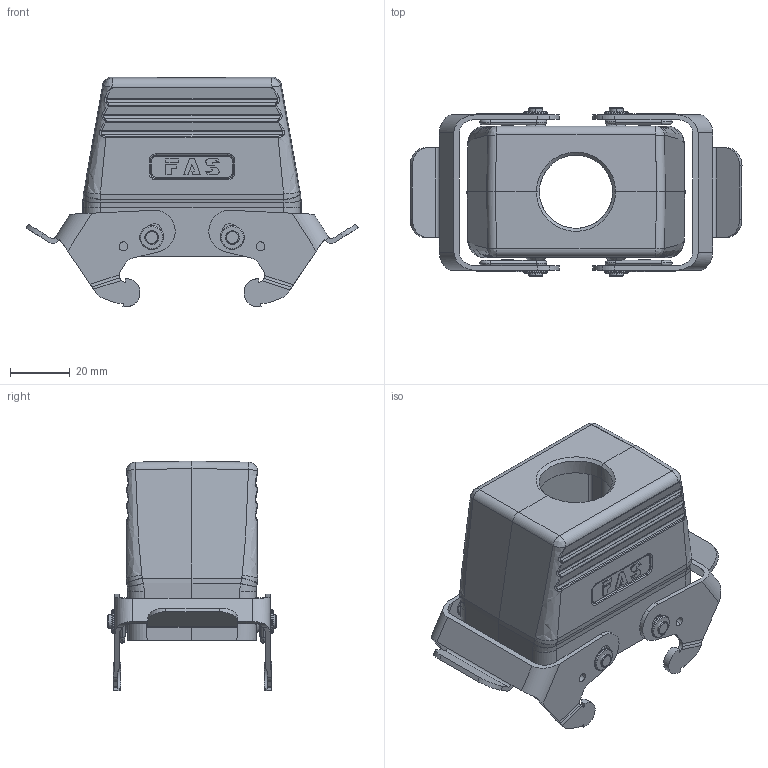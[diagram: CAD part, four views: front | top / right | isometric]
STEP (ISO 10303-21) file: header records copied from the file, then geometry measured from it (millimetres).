
FILE_DESCRIPTION (( 'STEP AP203' ), '1' );
FILE_NAME ('H10-TGB-M20&25.STEP', '2020-11-21T03:18:06', ( '' ), ( '' ), 'SwSTEP 2.0', 'SolidWorks 2016', '' );
FILE_SCHEMA (( 'CONFIG_CONTROL_DESIGN' ));
Length unit declared in the file: millimetre
Products named in the file (8): TANHUANG_1; MAODING; MAODING_1; JINSHUSHUANGKOU; H10B-TG; TANHUANG; 24BCAIXINSHUANGKOU; H10-TGB-M20&25
Assembly tree (8 placements, depth 3):
  H10-TGB-M20&25
    JINSHUSHUANGKOU  x2
      24BCAIXINSHUANGKOU
      MAODING
      MAODING_1
      TANHUANG
      TANHUANG_1
    H10B-TG
Bounding box: 111.15 x 56.4 x 76.89 mm (x, y, z)
Volume: 67803 mm3; surface area: 41066.5 mm2
Topology: 11 solids, 11 shells, 875 faces, 2201 edges, 1384 vertices
Faces by surface type: cylinder 297, plane 280, bspline 238, cone 60
Entity records: 31706 total; most frequent: CARTESIAN_POINT 15760, ORIENTED_EDGE 3456, DIRECTION 2761, EDGE_CURVE 1728, VERTEX_POINT 1080, AXIS2_PLACEMENT_3D 1018, EDGE_LOOP 742, LINE 725
